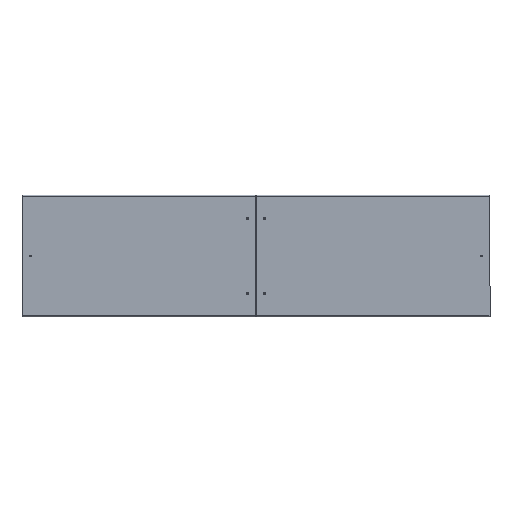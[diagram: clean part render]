
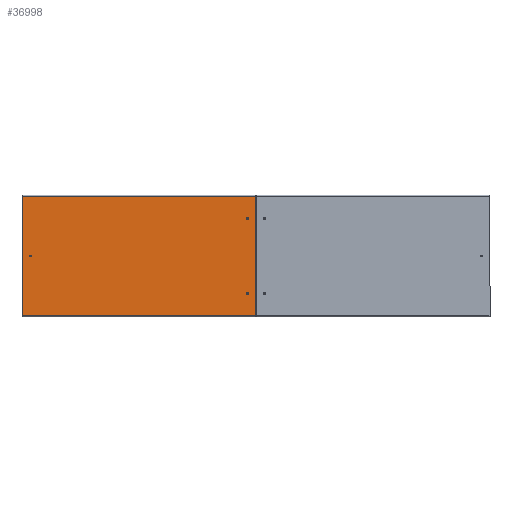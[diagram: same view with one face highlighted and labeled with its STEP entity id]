
A CAD part, top view. The second image highlights one B-rep face of the part: STEP entity #36998.
In plain terms, the highlighted planar face has unit normal (0, 0, 1).
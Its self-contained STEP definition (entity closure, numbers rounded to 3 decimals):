
#959=FACE_BOUND('',#7296,.T.);
#960=FACE_BOUND('',#7297,.T.);
#961=FACE_BOUND('',#7298,.T.);
#2032=CIRCLE('',#39938,9.5);
#2278=CIRCLE('',#40349,9.5);
#2280=CIRCLE('',#40352,9.5);
#5029=FACE_OUTER_BOUND('',#7295,.T.);
#7295=EDGE_LOOP('',(#31099,#31100,#31101,#31102));
#7296=EDGE_LOOP('',(#31103));
#7297=EDGE_LOOP('',(#31104));
#7298=EDGE_LOOP('',(#31105));
#10484=LINE('',#60714,#13974);
#10491=LINE('',#60735,#13981);
#10494=LINE('',#60742,#13984);
#10501=LINE('',#60757,#13991);
#13974=VECTOR('',#48963,10.);
#13981=VECTOR('',#48986,10.);
#13984=VECTOR('',#48993,10.);
#13991=VECTOR('',#49008,10.);
#17190=VERTEX_POINT('',#59707);
#17524=VERTEX_POINT('',#60700);
#17526=VERTEX_POINT('',#60705);
#17529=VERTEX_POINT('',#60711);
#17530=VERTEX_POINT('',#60713);
#17535=VERTEX_POINT('',#60732);
#17536=VERTEX_POINT('',#60734);
#21799=EDGE_CURVE('',#17190,#17190,#2032,.T.);
#22293=EDGE_CURVE('',#17524,#17524,#2278,.T.);
#22295=EDGE_CURVE('',#17526,#17526,#2280,.T.);
#22298=EDGE_CURVE('',#17530,#17529,#10484,.T.);
#22309=EDGE_CURVE('',#17536,#17535,#10491,.T.);
#22313=EDGE_CURVE('',#17536,#17529,#10494,.T.);
#22322=EDGE_CURVE('',#17530,#17535,#10501,.T.);
#31099=ORIENTED_EDGE('',*,*,#22309,.T.);
#31100=ORIENTED_EDGE('',*,*,#22322,.F.);
#31101=ORIENTED_EDGE('',*,*,#22298,.T.);
#31102=ORIENTED_EDGE('',*,*,#22313,.F.);
#31103=ORIENTED_EDGE('',*,*,#21799,.T.);
#31104=ORIENTED_EDGE('',*,*,#22293,.T.);
#31105=ORIENTED_EDGE('',*,*,#22295,.T.);
#35387=PLANE('',#40371);
#36998=ADVANCED_FACE('',(#5029,#959,#960,#961),#35387,.T.);
#39938=AXIS2_PLACEMENT_3D('',#59708,#47880,#47881);
#40349=AXIS2_PLACEMENT_3D('',#60701,#48950,#48951);
#40352=AXIS2_PLACEMENT_3D('',#60706,#48956,#48957);
#40371=AXIS2_PLACEMENT_3D('',#60761,#49014,#49015);
#47880=DIRECTION('center_axis',(0.,0.,-1.));
#47881=DIRECTION('ref_axis',(-1.,0.,0.));
#48950=DIRECTION('center_axis',(0.,0.,-1.));
#48951=DIRECTION('ref_axis',(1.,0.,0.));
#48956=DIRECTION('center_axis',(0.,0.,-1.));
#48957=DIRECTION('ref_axis',(1.,0.,0.));
#48963=DIRECTION('',(0.,-1.,0.));
#48986=DIRECTION('',(0.,1.,0.));
#48993=DIRECTION('',(-1.,0.,0.));
#49008=DIRECTION('',(1.,0.,0.));
#49014=DIRECTION('center_axis',(0.,0.,1.));
#49015=DIRECTION('ref_axis',(1.,0.,0.));
#59707=CARTESIAN_POINT('',(-9.5,1160.,6.));
#59708=CARTESIAN_POINT('Origin',(0.,1160.,6.));
#60700=CARTESIAN_POINT('',(409.5,-1160.,6.));
#60701=CARTESIAN_POINT('Origin',(400.,-1160.,6.));
#60705=CARTESIAN_POINT('',(-390.5,-1160.,6.));
#60706=CARTESIAN_POINT('Origin',(-400.,-1160.,6.));
#60711=CARTESIAN_POINT('',(-638.,-1250.,6.));
#60713=CARTESIAN_POINT('',(-638.,1250.,6.));
#60714=CARTESIAN_POINT('',(-638.,625.,6.));
#60732=CARTESIAN_POINT('',(638.,1250.,6.));
#60734=CARTESIAN_POINT('',(638.,-1250.,6.));
#60735=CARTESIAN_POINT('',(638.,-625.,6.));
#60742=CARTESIAN_POINT('',(650.,-1250.,6.));
#60757=CARTESIAN_POINT('',(-650.,1250.,6.));
#60761=CARTESIAN_POINT('Origin',(0.,0.,
6.));
